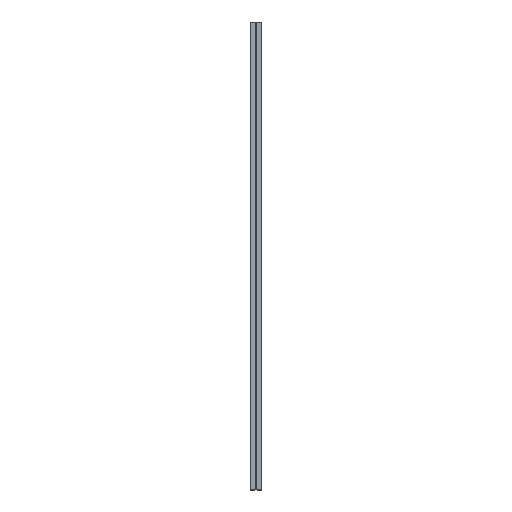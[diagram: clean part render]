
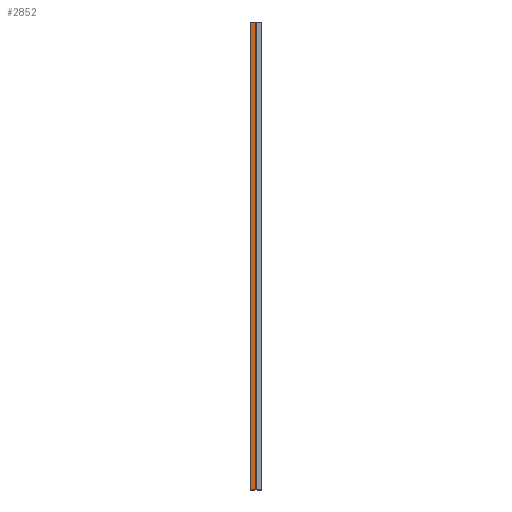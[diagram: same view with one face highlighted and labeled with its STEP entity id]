
A CAD part, top view. The second image highlights one B-rep face of the part: STEP entity #2852.
In plain terms, the highlighted planar face has unit normal (0, 0, 1).
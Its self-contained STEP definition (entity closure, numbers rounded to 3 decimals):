
#114 = VERTEX_POINT ( 'NONE', #2918 ) ;
#360 = DIRECTION ( 'NONE',  ( 0., -1., 0. ) ) ;
#373 = CARTESIAN_POINT ( 'NONE',  ( -12., 500., 5. ) ) ;
#435 = VERTEX_POINT ( 'NONE', #2052 ) ;
#627 = CARTESIAN_POINT ( 'NONE',  ( -12., -500., 5. ) ) ;
#635 = DIRECTION ( 'NONE',  ( -1., 0., 0. ) ) ;
#971 = CARTESIAN_POINT ( 'NONE',  ( -12., 500., 5. ) ) ;
#1048 = AXIS2_PLACEMENT_3D ( 'NONE', #373, #2207, #635 ) ;
#1260 = VERTEX_POINT ( 'NONE', #1499 ) ;
#1332 = EDGE_CURVE ( 'NONE', #114, #435, #2464, .T. ) ;
#1499 = CARTESIAN_POINT ( 'NONE',  ( -12., -500., 5. ) ) ;
#1630 = LINE ( 'NONE', #1938, #3047 ) ;
#1646 = LINE ( 'NONE', #627, #2988 ) ;
#1802 = DIRECTION ( 'NONE',  ( 0., -1., 0. ) ) ;
#1814 = VECTOR ( 'NONE', #1802, 1000. ) ;
#1846 = VERTEX_POINT ( 'NONE', #2215 ) ;
#1938 = CARTESIAN_POINT ( 'NONE',  ( -12., 500., 5. ) ) ;
#1944 = ORIENTED_EDGE ( 'NONE', *, *, #1332, .F. ) ;
#1995 = DIRECTION ( 'NONE',  ( 1., 0., 0. ) ) ;
#2052 = CARTESIAN_POINT ( 'NONE',  ( -0.3, 500., 5. ) ) ;
#2109 = CARTESIAN_POINT ( 'NONE',  ( -0.3, 500., 5. ) ) ;
#2207 = DIRECTION ( 'NONE',  ( 0., 0., -1. ) ) ;
#2215 = CARTESIAN_POINT ( 'NONE',  ( -0.3, -500., 5. ) ) ;
#2296 = EDGE_CURVE ( 'NONE', #435, #1846, #3235, .T. ) ;
#2355 = FACE_OUTER_BOUND ( 'NONE', #2948, .T. ) ;
#2428 = ORIENTED_EDGE ( 'NONE', *, *, #2835, .T. ) ;
#2464 = LINE ( 'NONE', #971, #3099 ) ;
#2551 = DIRECTION ( 'NONE',  ( 1., 0., 0. ) ) ;
#2744 = PLANE ( 'NONE',  #1048 ) ;
#2832 = ORIENTED_EDGE ( 'NONE', *, *, #2296, .F. ) ;
#2835 = EDGE_CURVE ( 'NONE', #114, #1260, #1630, .T. ) ;
#2852 = ADVANCED_FACE ( 'NONE', ( #2355 ), #2744, .F. ) ;
#2888 = ORIENTED_EDGE ( 'NONE', *, *, #3383, .T. ) ;
#2918 = CARTESIAN_POINT ( 'NONE',  ( -12., 500., 5. ) ) ;
#2948 = EDGE_LOOP ( 'NONE', ( #2888, #2832, #1944, #2428 ) ) ;
#2988 = VECTOR ( 'NONE', #1995, 1000. ) ;
#3047 = VECTOR ( 'NONE', #360, 1000. ) ;
#3099 = VECTOR ( 'NONE', #2551, 1000. ) ;
#3235 = LINE ( 'NONE', #2109, #1814 ) ;
#3383 = EDGE_CURVE ( 'NONE', #1260, #1846, #1646, .T. ) ;
